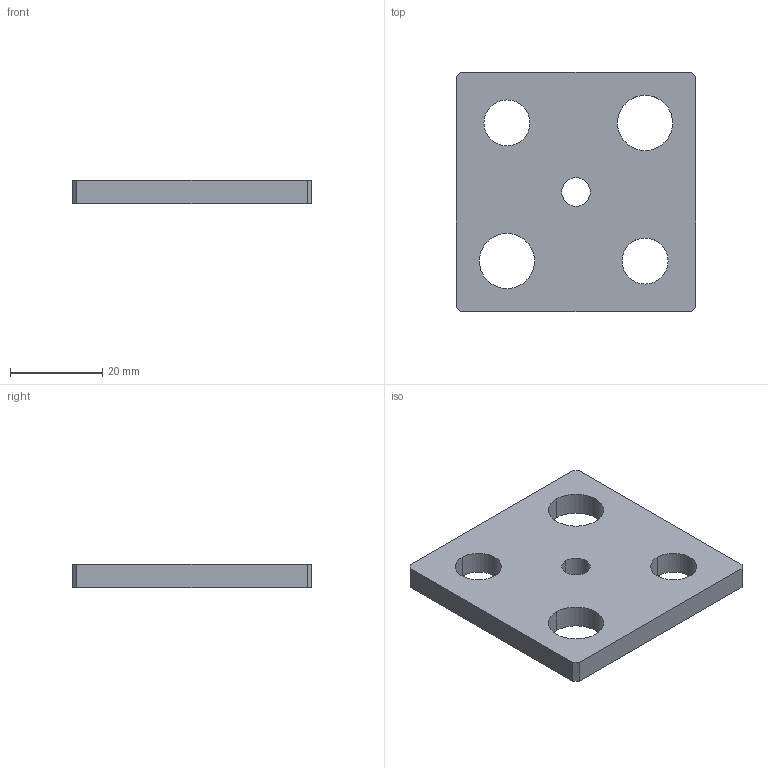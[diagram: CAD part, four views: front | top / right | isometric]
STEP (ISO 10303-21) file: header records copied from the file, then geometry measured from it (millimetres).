
FILE_DESCRIPTION(/* description */ (''),/* implementation_level */ '2;1');
FILE_NAME(/* name */ '3d_mpsp20_04600_r00.stp',/* time_stamp */ '2011-01-10T14:13:29+09:00',/* author */ ('MISUMI'),/* organization */ (''),/* preprocessor_version */ 'ST-DEVELOPER v11',/* originating_system */ 'UGS - NX 5.0',/* authorisation */ '');
FILE_SCHEMA (('CONFIG_CONTROL_DESIGN'));
Length unit declared in the file: millimetre
Products named in the file (1): 3d_mpsp20_04600_r00
Bounding box: 52 x 52 x 5 mm (x, y, z)
Volume: 11442.7 mm3; surface area: 6393.9 mm2
Topology: 1 solids, 1 shells, 20 faces, 54 edges, 36 vertices
Faces by surface type: plane 10, cylinder 10
Entity records: 744 total; most frequent: DIRECTION 116, CARTESIAN_POINT 111, ORIENTED_EDGE 108, EDGE_CURVE 54, AXIS2_PLACEMENT_3D 41, VERTEX_POINT 36, LINE 34, VECTOR 34
